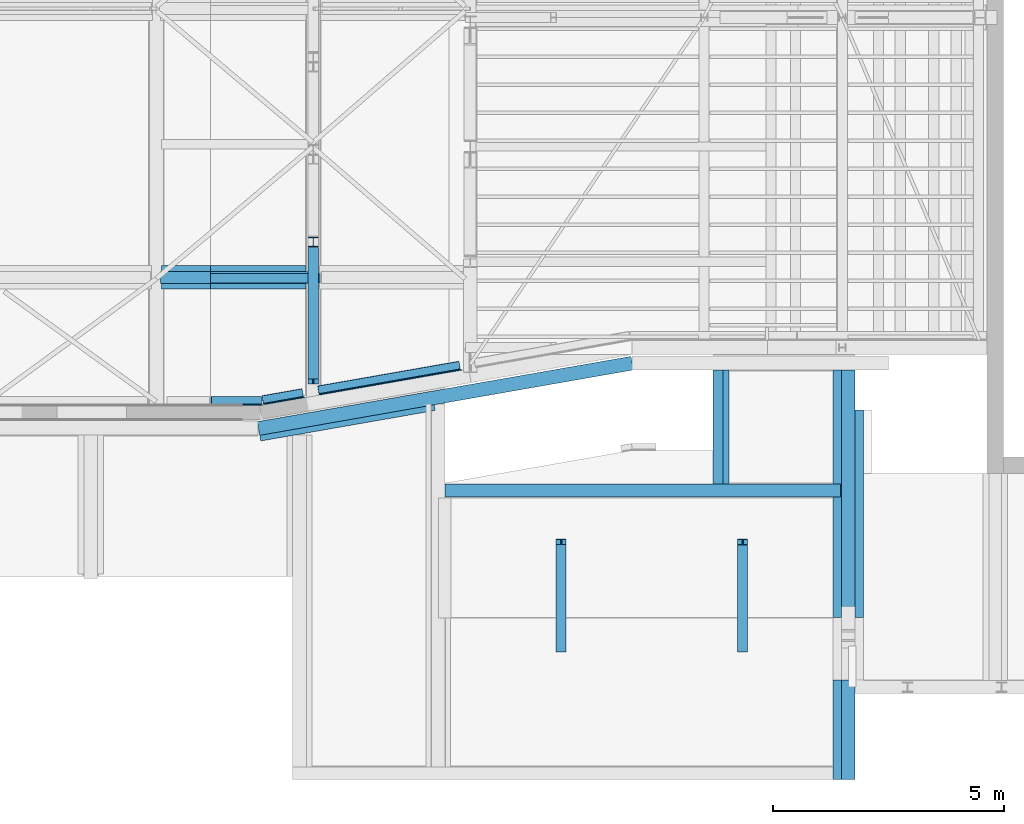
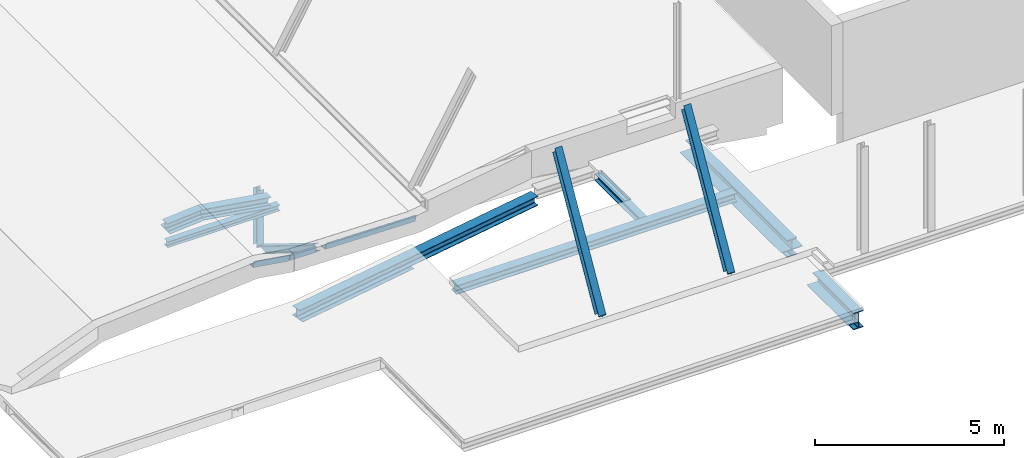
# One storey, part 24 of 50: 15 beams.
"""IFC2X3 building model written with IfcOpenShell, lengths in millimetres."""

from ifc_helpers import new_model, entity, si_unit, converted_unit, derived_unit, direction, frame, frame_2d, origin, place, context, subcontext, project, spatial, polyline, circle_curve, parameter, trimmed, segment, composite_curve, rectangle, i_section, outline, extrude, clip, halfspace, bounded_halfspace, source, transform, mapped, material, material_list, type_object, type_shapes, element, save


model = new_model("IFC2X3")

# Units and contexts
model_context = context("Model", 3, precision=0.01, world=origin(), true_north=direction((6.12303176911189e-17, 1.0)))
body_context = subcontext(model_context, "Body", "Model", "MODEL_VIEW")
ifc_project = project(units=[si_unit("LENGTHUNIT", "METRE", prefix="MILLI"), si_unit("AREAUNIT", "SQUARE_METRE", prefix="MILLI"), si_unit("VOLUMEUNIT", "CUBIC_METRE"), converted_unit("PLANEANGLEUNIT", "DEGREE", entity("IfcRatioMeasure", 0.0174532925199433), si_unit("PLANEANGLEUNIT", "RADIAN"), dimensions=[0, 0, 0, 0, 0, 0, 0]), si_unit("MASSUNIT", "GRAM", prefix="KILO"), derived_unit("MASSDENSITYUNIT", [(si_unit("MASSUNIT", "GRAM", prefix="KILO"), 1), (si_unit("LENGTHUNIT", "METRE"), -3)]), derived_unit("MOMENTOFINERTIAUNIT", [(si_unit("LENGTHUNIT", "METRE"), 4)]), si_unit("TIMEUNIT", "SECOND"), si_unit("FREQUENCYUNIT", "HERTZ"), si_unit("THERMODYNAMICTEMPERATUREUNIT", "DEGREE_CELSIUS"), derived_unit("THERMALTRANSMITTANCEUNIT", [(si_unit("MASSUNIT", "GRAM", prefix="KILO"), 1), (si_unit("THERMODYNAMICTEMPERATUREUNIT", "KELVIN"), -1), (si_unit("TIMEUNIT", "SECOND"), -3)]), derived_unit("VOLUMETRICFLOWRATEUNIT", [(si_unit("LENGTHUNIT", "METRE"), 3), (si_unit("TIMEUNIT", "SECOND"), -1)]), si_unit("ELECTRICCURRENTUNIT", "AMPERE"), si_unit("ELECTRICVOLTAGEUNIT", "VOLT"), si_unit("POWERUNIT", "WATT"), si_unit("FORCEUNIT", "NEWTON", prefix="KILO"), si_unit("ILLUMINANCEUNIT", "LUX"), si_unit("LUMINOUSFLUXUNIT", "LUMEN"), si_unit("LUMINOUSINTENSITYUNIT", "CANDELA"), derived_unit("USERDEFINED", [(si_unit("MASSUNIT", "GRAM", prefix="KILO"), -1), (si_unit("LENGTHUNIT", "METRE"), -2), (si_unit("TIMEUNIT", "SECOND"), 3), (si_unit("LUMINOUSFLUXUNIT", "LUMEN"), 1)]), derived_unit("LINEARVELOCITYUNIT", [(si_unit("LENGTHUNIT", "METRE"), 1), (si_unit("TIMEUNIT", "SECOND"), -1)]), si_unit("PRESSUREUNIT", "PASCAL"), derived_unit("USERDEFINED", [(si_unit("LENGTHUNIT", "METRE"), -2), (si_unit("MASSUNIT", "GRAM", prefix="KILO"), 1), (si_unit("TIMEUNIT", "SECOND"), -2)]), derived_unit("LINEARFORCEUNIT", [(si_unit("MASSUNIT", "GRAM", prefix="KILO"), 1), (si_unit("LENGTHUNIT", "METRE"), 1), (si_unit("TIMEUNIT", "SECOND"), -2), (si_unit("LENGTHUNIT", "METRE"), -1)]), derived_unit("PLANARFORCEUNIT", [(si_unit("MASSUNIT", "GRAM", prefix="KILO"), 1), (si_unit("LENGTHUNIT", "METRE"), 1), (si_unit("TIMEUNIT", "SECOND"), -2), (si_unit("LENGTHUNIT", "METRE"), -2)])], contexts=[model_context])

# Site, building, storey
site_placement = place(None, origin())
site = spatial("IfcSite", under=ifc_project, at=site_placement, Name="Theater aan de Parade", CompositionType="ELEMENT")
building_placement = place(site_placement, origin())
building = spatial("IfcBuilding", under=site, at=building_placement, Name="Theater aan de Parade", CompositionType="ELEMENT")
storey_placement = place(building_placement, frame((0.0, 0.0, 15820.0)))
storey = spatial("IfcBuildingStorey", under=building, at=storey_placement, Name="04 vierde verdieping", CompositionType="ELEMENT", Elevation=15820.0)

# Beams
ifc_material_1 = material(Name="00_PBT_MAT_staal_S355")
beam_type_1 = type_object("IfcBeamType", Name="28_PBT_SF_staal_H-profiel:S355_HE220B", PredefinedType="NOTDEFINED")
beam_1_placement = place(storey_placement, frame((52739.1873742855, 21030.2202940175, 1480.0), z_axis=(0.0, 0.525335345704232, 0.850895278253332), x_axis=(0.0, 0.850895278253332, -0.525335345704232)))
element("IfcBeam", 1, at=beam_1_placement, inside=storey, type_object=beam_type_1, material=ifc_material_1, Name="28_PBT_SF_staal_H-profiel:S355_HE220B", ObjectType="28_PBT_SF_staal_H-profiel:S355_HE220B", context=body_context, shape_type="Clipping", body=[
    clip(clip(extrude(outline(composite_curve([segment(polyline([(94.0, -110.0), (110.0, -110.0)]), True, "CONTINUOUS"), segment(polyline([(110.0, -110.0), (110.0, 110.0)]), True, "CONTINUOUS"), segment(polyline([(110.0, 110.0), (94.0, 110.0)]), True, "CONTINUOUS"), segment(polyline([(94.0, 110.0), (94.0, 22.7499999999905)]), True, "CONTINUOUS"), segment(trimmed(circle_curve(frame_2d((76.0, 22.7499999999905), x_axis=(1.0, 0.0)), 17.9999999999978), [parameter(269.999999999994)], [parameter(0.0)], True, "PARAMETER"), False, "CONTINUOUS"), segment(polyline([(76.0, 4.74999999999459), (-76.0, 4.74999999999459)]), True, "CONTINUOUS"), segment(trimmed(circle_curve(frame_2d((-76.0, 22.7499999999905), x_axis=(0.0, -1.0)), 17.9999999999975), [parameter(269.999999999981)], [parameter(0.0)], True, "PARAMETER"), False, "CONTINUOUS"), segment(polyline([(-94.0, 22.7499999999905), (-94.0, 110.0)]), True, "CONTINUOUS"), segment(polyline([(-94.0, 110.0), (-110.0, 110.0)]), True, "CONTINUOUS"), segment(polyline([(-110.0, 110.0), (-110.0, -110.0)]), True, "CONTINUOUS"), segment(polyline([(-110.0, -110.0), (-94.0, -110.0)]), True, "CONTINUOUS"), segment(polyline([(-94.0, -110.0), (-94.0, -22.7500000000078)]), True, "CONTINUOUS"), segment(trimmed(circle_curve(frame_2d((-76.0, -22.7500000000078), x_axis=(-1.0, 0.0)), 17.9999999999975), [parameter(269.999999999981)], [parameter(0.0)], True, "PARAMETER"), False, "CONTINUOUS"), segment(polyline([(-76.0, -4.75000000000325), (76.0, -4.75000000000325)]), True, "CONTINUOUS"), segment(trimmed(circle_curve(frame_2d((76.0, -22.7500000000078), x_axis=(0.0, 1.0)), 17.9999999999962), [parameter(269.999999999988)], [parameter(0.0)], True, "PARAMETER"), False, "CONTINUOUS"), segment(polyline([(94.0, -22.7500000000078), (94.0, -110.0)]), True, "CONTINUOUS")], self_intersect=False)), frame((495.436375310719, 0.0, 0.0), z_axis=(1.0, 0.0, 0.0), x_axis=(0.0, 0.0, -1.0)), (0.0, 0.0, 1.0), 3384.46111629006), halfspace(frame((3610.91130021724, -130.0, -121.120267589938), z_axis=(0.525335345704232, 0.0, -0.850895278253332), x_axis=(0.850895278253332, 0.0, 0.525335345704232)), False)), halfspace(frame((3894.2391465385, -130.0, 21.7200268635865), z_axis=(0.850895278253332, 0.0, 0.525335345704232), x_axis=(-0.525335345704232, 0.0, 0.850895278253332)), False)),
])
ifc_material_2 = material(Name="00_PBT_MAT_Lucht")
ifc_material_list_1 = material_list([ifc_material_2, ifc_material_1])
beam_type_2 = type_object("IfcBeamType", Name="28_PBT_SF_staal_H-profiel_met_ondergelaste_strip (void):S355_HE300B + ondergelaste strip d=12", PredefinedType="BEAM", material=ifc_material_list_1)
shared_shape_1 = source(origin(), body_context, "Body", "SweptSolid", [
    extrude(rectangle(XDim=12.0, YDim=420.0, at=frame_2d((8.43769498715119e-15, 0.0), x_axis=(1.0, 0.0))), frame((-4112.59046725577, -65.0, -156.0), z_axis=(1.0, 0.0, 0.0), x_axis=(0.0, 0.0, -1.0)), (0.0, 0.0, 1.0), 3841.18093451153),
    extrude(i_section(OverallWidth=300.0, OverallDepth=300.0, WebThickness=11.0, FlangeThickness=18.9999999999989, FilletRadius=27.0, at=frame_2d((-3.97903932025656e-13, -1.4210854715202e-14), x_axis=(0.0, 1.0))), frame((-4113.59046725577, 0.0, 0.0), z_axis=(1.0, 0.0, 0.0), x_axis=(0.0, 0.0, -1.0)), (0.0, 0.0, 1.0), 8227.18093451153),
])
type_shapes(beam_type_2, [shared_shape_1])
beam_2_placement = place(storey_placement, frame((55604.3861490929, 21141.1470188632, 160.0), z_axis=(0.0, 0.0, 1.0), x_axis=(0.985030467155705, 0.172380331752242, 0.0)))
element("IfcBeam", 2, at=beam_2_placement, inside=storey, type_object=beam_type_2, material=ifc_material_1, Name="28_PBT_SF_staal_H-profiel_met_ondergelaste_strip (void):S355_HE300B + ondergelaste strip d=12", ObjectType="28_PBT_SF_staal_H-profiel_met_ondergelaste_strip (void):S355_HE300B + ondergelaste strip d=12", context=body_context, shape_type="MappedRepresentation", body=[
    mapped(shared_shape_1, transform((0.0, 0.0, 0.0), scale=1.0)),
])
beam_type_3 = type_object("IfcBeamType", Name="28_PBT_SF_staal_H-profiel (void):S355_HE280B", PredefinedType="NOTDEFINED")
beam_3_placement = place(storey_placement, frame((55600.0, 19087.7872041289, 0.0)))
element("IfcBeam", 3, at=beam_3_placement, inside=storey, type_object=beam_type_3, material=ifc_material_1, Name="28_PBT_SF_staal_H-profiel (void):S355_HE280B", ObjectType="28_PBT_SF_staal_H-profiel (void):S355_HE280B", context=body_context, shape_type="SweptSolid", body=[
    extrude(outline(composite_curve([segment(polyline([(122.0, -140.0), (140.0, -140.0)]), True, "CONTINUOUS"), segment(polyline([(140.0, -140.0), (140.0, 140.0)]), True, "CONTINUOUS"), segment(polyline([(140.0, 140.0), (122.0, 140.0)]), True, "CONTINUOUS"), segment(polyline([(122.0, 140.0), (122.0, 29.2500000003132)]), True, "CONTINUOUS"), segment(trimmed(circle_curve(frame_2d((98.0, 29.250000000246), x_axis=(1.0, 0.0)), 24.0000000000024), [parameter(270.00000000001)], [parameter(0.0)], True, "PARAMETER"), False, "CONTINUOUS"), segment(polyline([(98.0, 5.25000000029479), (-98.0, 5.24999999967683)]), True, "CONTINUOUS"), segment(trimmed(circle_curve(frame_2d((-98.0, 29.24999999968), x_axis=(0.0, -1.0)), 24.0000000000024), [parameter(270.00000000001)], [parameter(0.0)], True, "PARAMETER"), False, "CONTINUOUS"), segment(polyline([(-122.0, 29.2499999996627), (-122.0, 140.0)]), True, "CONTINUOUS"), segment(polyline([(-122.0, 140.0), (-140.0, 140.0)]), True, "CONTINUOUS"), segment(polyline([(-140.0, 140.0), (-140.0, -140.0)]), True, "CONTINUOUS"), segment(polyline([(-140.0, -140.0), (-122.0, -140.0)]), True, "CONTINUOUS"), segment(polyline([(-122.0, -140.0), (-122.0, -29.2500000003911)]), True, "CONTINUOUS"), segment(trimmed(circle_curve(frame_2d((-98.0, -29.250000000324), x_axis=(-1.0, 0.0)), 24.000000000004), [parameter(270.000000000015)], [parameter(0.0)], True, "PARAMETER"), False, "CONTINUOUS"), segment(polyline([(-98.0, -5.25000000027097), (98.0, -5.24999999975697)]), True, "CONTINUOUS"), segment(trimmed(circle_curve(frame_2d((98.0, -29.249999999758), x_axis=(0.0, 1.0)), 24.0000000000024), [parameter(270.00000000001)], [parameter(0.0)], True, "PARAMETER"), False, "CONTINUOUS"), segment(polyline([(122.0, -29.2499999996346), (122.0, -140.0)]), True, "CONTINUOUS")], self_intersect=False)), frame((0.0, 0.0, 365.0), z_axis=(1.0, 0.0, 0.0), x_axis=(0.0, 0.0, -1.0)), (0.0, 0.0, 1.0), 8574.55207550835),
])
beam_type_4 = type_object("IfcBeamType", Name="28_PBT_SF_staal_H-profiel:S355_HE220A", PredefinedType="NOTDEFINED")
beam_4_placement = place(storey_placement, frame((58114.89761, 15488.4550735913, 546.836930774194), z_axis=(1.0, 0.0, 0.0), x_axis=(0.0, 0.500000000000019, 0.866025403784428)))
element("IfcBeam", 4, at=beam_4_placement, inside=storey, type_object=beam_type_4, material=ifc_material_1, Name="28_PBT_SF_staal_H-profiel:S355_HE220A", ObjectType="28_PBT_SF_staal_H-profiel:S355_HE220A", context=body_context, shape_type="Clipping", body=[
    clip(clip(clip(extrude(i_section(OverallWidth=220.000000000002, OverallDepth=210.0, WebThickness=6.99999999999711, FlangeThickness=11.0000000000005, FilletRadius=17.9999999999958, at=frame_2d((-8.66151594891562e-12, 9.30810983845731e-13), x_axis=(1.0, 0.0))), frame((145.926223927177, -105.0, 0.0), z_axis=(1.0, 0.0, 0.0), x_axis=(0.0, 0.0, -1.0)), (0.0, 0.0, 1.0), 4702.85315593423), halfspace(frame((4848.7793798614, 0.0, 156.495608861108), z_axis=(0.866025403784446, -0.499999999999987, 0.0), x_axis=(0.499999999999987, 0.866025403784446, 0.0)), False)), bounded_halfspace(frame((208.452082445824, -134.723459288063, 3069.47192916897), z_axis=(-0.866025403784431, -0.500000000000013, 0.0), x_axis=(0.500000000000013, -0.866025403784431, 0.0)), False, frame((145.926223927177, -105.0, 0.0), z_axis=(1.0, 0.0, 0.0), x_axis=(0.0, 0.0, -1.0)), polyline([(3.49999999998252, 76.0), (3.49999999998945, -76.0), (21.4999999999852, -94.0), (110.0, -94.0), (110.0, -105.0), (-110.0, -105.0), (-110.0, -94.0), (-21.5000000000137, -94.0), (-3.50000000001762, -76.0), (-3.50000000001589, 76.0), (-3.68506450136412, 78.5745044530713), (3.68506450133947, 78.5745044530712), (3.49999999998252, 76.0)]))), bounded_halfspace(frame((222.878332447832, 18.002825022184, 3069.47192916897), z_axis=(-0.500000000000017, 0.866025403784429, 0.0), x_axis=(0.866025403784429, 0.500000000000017, 0.0)), False, frame((145.926223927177, -105.0, 0.0), z_axis=(1.0, 0.0, 0.0), x_axis=(0.0, 0.0, -1.0)), polyline([(-3.68506450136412, 78.5745044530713), (-21.5000000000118, 94.0), (-110.0, 94.0), (-110.0, 105.0), (110.0, 105.0), (110.0, 94.0), (21.4999999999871, 94.0), (3.6850645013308, 78.5745044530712), (-3.68506450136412, 78.5745044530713)]))),
])
beam_5_placement = place(storey_placement, frame((62051.6547583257, 15488.4550735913, 546.836930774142), z_axis=(1.0, 0.0, 0.0), x_axis=(0.0, 0.500000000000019, 0.866025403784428)))
element("IfcBeam", 5, at=beam_5_placement, inside=storey, type_object=beam_type_4, material=ifc_material_1, Name="28_PBT_SF_staal_H-profiel:S355_HE220A", ObjectType="28_PBT_SF_staal_H-profiel:S355_HE220A", context=body_context, shape_type="Clipping", body=[
    clip(clip(clip(extrude(i_section(OverallWidth=220.000000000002, OverallDepth=209.999999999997, WebThickness=6.9999999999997, FlangeThickness=11.0000000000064, FilletRadius=17.9999999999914, at=frame_2d((-1.73230318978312e-11, 1.47792889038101e-12), x_axis=(1.0, 0.0))), frame((145.926223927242, -105.0, 0.0), z_axis=(1.0, 0.0, 0.0), x_axis=(0.0, 0.0, -1.0)), (0.0, 0.0, 1.0), 4696.13047582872), halfspace(frame((4870.13287335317, 48.6293591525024, -3780.26153946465), z_axis=(0.866025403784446, -0.499999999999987, 0.0), x_axis=(0.499999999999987, 0.866025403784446, 0.0)), False)), bounded_halfspace(frame((208.45208244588, -134.723459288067, -867.285219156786), z_axis=(-0.866025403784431, -0.500000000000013, 0.0), x_axis=(0.500000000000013, -0.866025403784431, 0.0)), False, frame((145.926223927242, -105.0, 0.0), z_axis=(1.0, 0.0, 0.0), x_axis=(0.0, 0.0, -1.0)), polyline([(3.49999999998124, 76.0), (3.49999999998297, -76.0), (21.4999999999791, -94.0), (110.0, -94.0), (110.0, -105.0), (-110.0, -105.0), (-110.0, -94.0), (-21.5000000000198, -94.0), (-3.50000000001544, -76.0), (-3.50000000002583, 76.0), (-3.68506450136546, 78.5745044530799), (3.68506450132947, 78.57450445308), (3.49999999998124, 76.0)]))), bounded_halfspace(frame((222.878332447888, 18.0028250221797, -867.285219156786), z_axis=(-0.500000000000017, 0.866025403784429, 0.0), x_axis=(0.866025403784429, 0.500000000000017, 0.0)), False, frame((145.926223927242, -105.0, 0.0), z_axis=(1.0, 0.0, 0.0), x_axis=(0.0, 0.0, -1.0)), polyline([(-3.68506450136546, 78.5745044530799), (-21.5000000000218, 94.0), (-110.0, 94.0), (-110.0, 105.0), (110.0, 105.0), (110.0, 94.0), (21.4999999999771, 94.0), (3.68506450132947, 78.57450445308), (-3.68506450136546, 78.5745044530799)]))),
])
beam_6_placement = place(storey_placement, frame((52739.1873742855, 24480.2202940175, -650.0), z_axis=(1.0, 0.0, 0.0), x_axis=(0.0, 0.0, 1.0)))
element("IfcBeam", 6, at=beam_6_placement, inside=storey, type_object=beam_type_4, material=ifc_material_1, Name="28_PBT_SF_staal_H-profiel:S355_HE220A", ObjectType="28_PBT_SF_staal_H-profiel:S355_HE220A", context=body_context, shape_type="SweptSolid", body=[
    extrude(i_section(OverallWidth=220.000000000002, OverallDepth=210.000000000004, WebThickness=6.99999999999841, FlangeThickness=10.9999999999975, FilletRadius=17.9999999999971, at=frame_2d((8.66862137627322e-12, -4.33431068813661e-12), x_axis=(1.0, 0.0))), frame((122.700000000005, 0.0, 0.0), z_axis=(1.0, 0.0, 0.0), x_axis=(0.0, 0.0, -1.0)), (0.0, 0.0, 1.0), 1834.6),
])
beam_type_5 = type_object("IfcBeamType", Name="28_PBT_SF_staal_L-profiel:S355_L200x200x20", PredefinedType="NOTDEFINED")
beam_7_placement = place(storey_placement, frame((50584.5809422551, 20986.7999999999, 2059.28942153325), z_axis=(0.156434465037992, 0.0, 0.987688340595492), x_axis=(0.987688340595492, 0.0, -0.156434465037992)))
element("IfcBeam", 7, at=beam_7_placement, inside=storey, type_object=beam_type_5, material=ifc_material_1, Name="28_PBT_SF_staal_L-profiel:S355_L200x200x20", ObjectType="28_PBT_SF_staal_L-profiel:S355_L200x200x20", context=body_context, shape_type="SweptSolid", body=[
    extrude(outline(composite_curve([segment(polyline([(-124.444444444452, -75.55555555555), (75.5555555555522, -75.5555555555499)]), True, "CONTINUOUS"), segment(polyline([(75.5555555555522, -75.5555555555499), (75.555555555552, 124.444444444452)]), True, "CONTINUOUS"), segment(polyline([(75.555555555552, 124.444444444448), (64.5555555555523, 124.444444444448)]), True, "CONTINUOUS"), segment(trimmed(circle_curve(frame_2d((64.555555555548, 115.444444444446), x_axis=(0.0, 1.0)), 8.9999999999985), [parameter(0.0)], [parameter(90.0000000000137)], True, "PARAMETER"), True, "CONTINUOUS"), segment(polyline([(55.5555555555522, 115.444444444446), (55.5555555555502, -37.5555555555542)]), True, "CONTINUOUS"), segment(trimmed(circle_curve(frame_2d((37.5555555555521, -37.5555555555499), x_axis=(1.0, 0.0)), 17.9999999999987), [parameter(269.999999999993)], [parameter(0.0)], True, "PARAMETER"), False, "CONTINUOUS"), segment(polyline([(37.5555555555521, -55.5555555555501), (-115.444444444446, -55.5555555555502)]), True, "CONTINUOUS"), segment(trimmed(circle_curve(frame_2d((-115.444444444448, -64.5555555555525), x_axis=(0.0, 1.0)), 8.99999999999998), [parameter(0.0)], [parameter(90.0000000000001)], True, "PARAMETER"), True, "CONTINUOUS"), segment(polyline([(-124.444444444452, -64.5555555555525), (-124.444444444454, -75.55555555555)]), True, "CONTINUOUS")], self_intersect=False)), frame((0.0, 18.7555555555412, -319.444444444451), z_axis=(1.0, 0.0, 0.0), x_axis=(0.0, 0.0, -1.0)), (0.0, 0.0, 1.0), 1102.47200859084),
])
beam_8_placement = place(storey_placement, frame((52917.8217096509, 21215.6734452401, 1689.7403884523), z_axis=(0.15184123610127, 0.0265722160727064, 0.988047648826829), x_axis=(0.973257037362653, 0.170319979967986, -0.154148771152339)))
element("IfcBeam", 8, at=beam_8_placement, inside=storey, type_object=beam_type_5, material=ifc_material_1, Name="28_PBT_SF_staal_L-profiel:S355_L200x200x20", ObjectType="28_PBT_SF_staal_L-profiel:S355_L200x200x20", context=body_context, shape_type="SweptSolid", body=[
    extrude(outline(composite_curve([segment(polyline([(-37.5555555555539, 55.5555555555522), (115.444444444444, 55.5555555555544)]), True, "CONTINUOUS"), segment(trimmed(circle_curve(frame_2d((115.444444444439, 64.5555555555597), x_axis=(0.0, -1.0)), 9.00000000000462), [parameter(0.0)], [parameter(89.9999999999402)], True, "PARAMETER"), True, "CONTINUOUS"), segment(polyline([(124.444444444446, 64.5555555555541), (124.444444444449, 75.555555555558)]), True, "CONTINUOUS"), segment(polyline([(124.444444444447, 75.5555555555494), (-75.5555555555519, 75.5555555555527)]), True, "CONTINUOUS"), segment(polyline([(-75.5555555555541, 75.5555555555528), (-75.5555555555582, -124.444444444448)]), True, "CONTINUOUS"), segment(polyline([(-75.5555555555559, -124.444444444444), (-64.5555555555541, -124.444444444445)]), True, "CONTINUOUS"), segment(trimmed(circle_curve(frame_2d((-64.5555555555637, -115.444444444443), x_axis=(0.0, -1.0)), 9.00000000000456), [parameter(0.0)], [parameter(89.9999999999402)], True, "PARAMETER"), True, "CONTINUOUS"), segment(polyline([(-55.5555555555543, -115.444444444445), (-55.555555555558, 37.5555555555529)]), True, "CONTINUOUS"), segment(trimmed(circle_curve(frame_2d((-37.5555555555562, 37.5555555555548), x_axis=(-1.0, 0.0)), 17.9999999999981), [parameter(269.999999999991)], [parameter(0.0)], True, "PARAMETER"), False, "CONTINUOUS")], self_intersect=False)), frame((0.0, 27.3629456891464, -318.822510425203), z_axis=(1.0, 0.0, 0.0), x_axis=(0.0, -0.0269662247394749, 0.999636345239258)), (0.0, 0.0, 1.0), 3147.54957756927),
])
beam_9_placement = place(storey_placement, frame((51708.5980926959, 21004.0593127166, 1881.26259424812), z_axis=(0.15184123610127, 0.0265722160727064, 0.988047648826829), x_axis=(0.973257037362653, 0.170319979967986, -0.154148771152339)))
element("IfcBeam", 9, at=beam_9_placement, inside=storey, type_object=beam_type_5, material=ifc_material_1, Name="28_PBT_SF_staal_L-profiel:S355_L200x200x20", ObjectType="28_PBT_SF_staal_L-profiel:S355_L200x200x20", context=body_context, shape_type="SweptSolid", body=[
    extrude(outline(composite_curve([segment(polyline([(-37.5555555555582, 55.5555555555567), (115.444444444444, 55.5555555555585)]), True, "CONTINUOUS"), segment(trimmed(circle_curve(frame_2d((115.444444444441, 64.5555555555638), x_axis=(0.0, -1.0)), 9.00000000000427), [parameter(0.0)], [parameter(89.9999999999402)], True, "PARAMETER"), True, "CONTINUOUS"), segment(polyline([(124.444444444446, 64.5555555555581), (124.444444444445, 75.5555555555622)]), True, "CONTINUOUS"), segment(polyline([(124.444444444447, 75.5555555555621), (-75.5555555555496, 75.5555555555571)]), True, "CONTINUOUS"), segment(polyline([(-75.5555555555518, 75.5555555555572), (-75.5555555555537, -124.444444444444)]), True, "CONTINUOUS"), segment(polyline([(-75.5555555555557, -124.444444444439), (-64.5555555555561, -124.44444444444)]), True, "CONTINUOUS"), segment(trimmed(circle_curve(frame_2d((-64.5555555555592, -115.444444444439), x_axis=(0.0, -1.0)), 9.00000000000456), [parameter(0.0)], [parameter(89.9999999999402)], True, "PARAMETER"), True, "CONTINUOUS"), segment(polyline([(-55.5555555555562, -115.44444444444), (-55.5555555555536, 37.5555555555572)]), True, "CONTINUOUS"), segment(trimmed(circle_curve(frame_2d((-37.5555555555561, 37.5555555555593), x_axis=(-1.0, 0.0)), 17.9999999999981), [parameter(269.999999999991)], [parameter(0.0)], True, "PARAMETER"), False, "CONTINUOUS")], self_intersect=False)), frame((0.0, 27.3629456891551, -318.822510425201), z_axis=(1.0, 0.0, 0.0), x_axis=(0.0, -0.0269662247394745, 0.999636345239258)), (0.0, 0.0, 1.0), 893.107966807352),
])
ifc_material_list_2 = material_list([ifc_material_1, ifc_material_2])
beam_type_6 = type_object("IfcBeamType", Name="28_PBT_SF_staal_H-profiel_met_ondergelaste_strip (void):S355_HE220A + ondergelaste strip d=12", PredefinedType="BEAM", material=ifc_material_list_2)
shared_shape_2 = source(origin(), body_context, "Body", "SweptSolid", [
    extrude(i_section(OverallWidth=220.000000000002, OverallDepth=210.0, WebThickness=6.99999999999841, FlangeThickness=10.9999999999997, FilletRadius=17.9999999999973, at=frame_2d((-8.66862137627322e-12, -2.16715534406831e-12), x_axis=(1.0, 0.0))), frame((61519.5746999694, 21705.0, 16145.0), z_axis=(0.0, -1.0, 0.0), x_axis=(-1.0, 0.0, 0.0)), (0.0, 0.0, 1.0), 2477.21279587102),
    extrude(rectangle(XDim=11.9999999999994, YDim=340.000000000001, at=frame_2d((-4.33431068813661e-12, 2.16582307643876e-12), x_axis=(0.0, 1.0))), frame((61584.5746999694, 21704.0, 16034.0), z_axis=(0.0, -1.0, 0.0), x_axis=(-1.0, 0.0, 0.0)), (0.0, 0.0, 1.0), 2475.21279587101),
])
type_shapes(beam_type_6, [shared_shape_2])
beam_10_placement = place(storey_placement, frame((0.0, 0.0, -15820.0)))
element("IfcBeam", 10, at=beam_10_placement, inside=storey, type_object=beam_type_6, material=ifc_material_1, Name="28_PBT_SF_staal_H-profiel_met_ondergelaste_strip (void):S355_HE220A + ondergelaste strip d=12", ObjectType="28_PBT_SF_staal_H-profiel_met_ondergelaste_strip (void):S355_HE220A + ondergelaste strip d=12", context=body_context, shape_type="MappedRepresentation", body=[
    mapped(shared_shape_2, transform((0.0, 0.0, 0.0), scale=1.0)),
])
beam_type_7 = type_object("IfcBeamType", Name="28_PBT_SF_staal_H-profiel:S355_HE200A", PredefinedType="NOTDEFINED")
beam_11_placement = place(storey_placement, frame((52889.1873742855, 23690.0, 0.0), z_axis=(0.0, 0.0, 1.0), x_axis=(-1.0, 0.0, 0.0)))
element("IfcBeam", 11, at=beam_11_placement, inside=storey, type_object=beam_type_7, material=ifc_material_1, Name="28_PBT_SF_staal_H-profiel:S355_HE200A", ObjectType="28_PBT_SF_staal_H-profiel:S355_HE200A", context=body_context, shape_type="SweptSolid", body=[
    extrude(i_section(OverallWidth=199.999999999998, OverallDepth=190.0, WebThickness=6.50000000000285, FlangeThickness=9.99999999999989, FilletRadius=18.0000000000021, at=frame_2d((2.16715534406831e-12, 6.50146603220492e-12), x_axis=(0.0, 1.0))), frame((0.0, 0.0, 1165.0), z_axis=(1.0, 0.0, 0.0), x_axis=(0.0, 0.0, -1.0)), (0.0, 0.0, 1.0), 3432.76164612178),
])
ifc_material_list_3 = material_list([ifc_material_2, ifc_material_1])
beam_type_8 = type_object("IfcBeamType", Name="28_PBT_SF_staal_H-profiel_met_onderplaat (void):S355_HE260A + onderplaat d=12", PredefinedType="BEAM", material=ifc_material_list_3)
shared_shape_3 = source(origin(), body_context, "Body", "Clipping", [
    clip(extrude(i_section(OverallWidth=260.000000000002, OverallDepth=250.000000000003, WebThickness=7.50000000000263, FlangeThickness=12.5, FilletRadius=23.9999999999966, at=frame_2d((-2.1600499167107e-12, -1.08002495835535e-12), x_axis=(1.0, 0.0))), frame((50495.0112438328, 23708.9366326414, 17640.3595866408), z_axis=(0.987688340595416, 0.0, -0.156434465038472), x_axis=(0.0, 1.0, 0.0)), (0.0, 0.0, 1.0), 2131.09008589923), halfspace(frame((50514.5655519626, 32410.0, 23110.0), z_axis=(-1.0, 0.0, 0.0), x_axis=(0.0, 0.0, 1.0)), False)),
    clip(extrude(rectangle(XDim=11.9999999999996, YDim=510.000000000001, at=frame_2d((-6.50857145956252e-12, -1.0689227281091e-12), x_axis=(0.0, 1.0))), frame((50513.6269451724, 23708.9366326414, 17504.7782177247), z_axis=(0.987688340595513, 0.0, -0.156434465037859), x_axis=(0.0, 1.0, 0.0)), (0.0, 0.0, 1.0), 2091.49397581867), halfspace(frame((50514.5655519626, 32410.0, 23110.0), z_axis=(-1.0, 0.0, 0.0), x_axis=(0.0, 0.0, 1.0)), False)),
])
type_shapes(beam_type_8, [shared_shape_3])
beam_12_placement = place(storey_placement, frame((0.0, 0.0, -15820.0)))
element("IfcBeam", 12, at=beam_12_placement, inside=storey, type_object=beam_type_8, material=ifc_material_1, Name="28_PBT_SF_staal_H-profiel_met_onderplaat (void):S355_HE260A + onderplaat d=12", ObjectType="28_PBT_SF_staal_H-profiel_met_onderplaat (void):S355_HE260A + onderplaat d=12", context=body_context, shape_type="MappedRepresentation", body=[
    mapped(shared_shape_3, transform((0.0, 0.0, 0.0), scale=1.0)),
])
ifc_material_list_4 = material_list([ifc_material_1, ifc_material_2])
beam_type_9 = type_object("IfcBeamType", Name="28_PBT_SF_staal_H-profiel_met_onderplaat (void):S355_HE260A + onderplaat d=12", PredefinedType="BEAM", material=ifc_material_list_4)
shared_shape_4 = source(origin(), body_context, "Body", "Clipping", [
    clip(extrude(i_section(OverallWidth=260.000000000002, OverallDepth=250.000000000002, WebThickness=7.50000000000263, FlangeThickness=12.499999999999, FilletRadius=23.9999999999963, at=frame_2d((2.1600499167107e-12, 2.1600499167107e-12), x_axis=(1.0, 0.0))), frame((49436.3488295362, 23708.9366326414, 17555.1125895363), z_axis=(0.99682073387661, 0.0, 0.0796770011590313), x_axis=(0.0, -1.0, 0.0)), (0.0, 0.0, 1.0), 1091.64698384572), halfspace(frame((50514.5655519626, 32410.0, 23110.0), z_axis=(1.0, 0.0, 0.0), x_axis=(0.0, 0.0, 1.0)), False)),
    clip(extrude(rectangle(XDim=12.0000000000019, YDim=510.000000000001, at=frame_2d((-2.1600499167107e-12, 0.0), x_axis=(0.0, 1.0))), frame((49446.786516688, 23708.9366326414, 17424.5290733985), z_axis=(0.996820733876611, 0.0, 0.0796770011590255), x_axis=(0.0, -1.0, 0.0)), (0.0, 0.0, 1.0), 1071.6642029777), halfspace(frame((50514.5655519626, 32410.0, 23110.0), z_axis=(1.0, 0.0, 0.0), x_axis=(0.0, 0.0, 1.0)), False)),
])
type_shapes(beam_type_9, [shared_shape_4])
beam_13_placement = place(storey_placement, frame((0.0, 0.0, -15820.0)))
element("IfcBeam", 13, at=beam_13_placement, inside=storey, type_object=beam_type_9, material=ifc_material_1, Name="28_PBT_SF_staal_H-profiel_met_onderplaat (void):S355_HE260A + onderplaat d=12", ObjectType="28_PBT_SF_staal_H-profiel_met_onderplaat (void):S355_HE260A + onderplaat d=12", context=body_context, shape_type="MappedRepresentation", body=[
    mapped(shared_shape_4, transform((0.0, 0.0, 0.0), scale=1.0)),
])
ifc_material_list_5 = material_list([ifc_material_1, ifc_material_2])
beam_type_10 = type_object("IfcBeamType", Name="28_PBT_SF_staal_H-profiel_met_oplegstrippen (void):S355_HE550B + oplegstrippen d=25_ h=325", PredefinedType="BEAM", material=ifc_material_list_5)
shared_shape_5 = source(origin(), body_context, "Body", "SweptSolid", [
    extrude(i_section(OverallWidth=300.000000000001, OverallDepth=550.000000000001, WebThickness=14.9999999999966, FlangeThickness=28.9999999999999, FilletRadius=27.0000000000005, at=frame_2d((8.65441052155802e-12, 0.0), x_axis=(1.0, 0.0))), frame((64344.5520755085, 21705.0, 16090.0), z_axis=(0.0, -1.0, 0.0), x_axis=(-1.0, 0.0, 0.0)), (0.0, 0.0, 1.0), 5368.19666399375),
    extrude(rectangle(XDim=25.0000000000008, YDim=319.999999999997, at=frame_2d((-1.4210854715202e-14, -2.16537898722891e-12), x_axis=(0.0, 1.0))), frame((64512.0520755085, 20830.0, 16027.5), z_axis=(0.0, -1.0, 0.0), x_axis=(-1.0, 0.0, 0.0)), (0.0, 0.0, 1.0), 4493.19666399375),
    extrude(rectangle(XDim=15.0000000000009, YDim=319.999999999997, at=frame_2d((4.33431068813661e-12, 0.0), x_axis=(0.0, 1.0))), frame((64177.0520755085, 21705.0, 16027.5), z_axis=(0.0, -1.0, 0.0), x_axis=(-1.0, 0.0, 0.0)), (0.0, 0.0, 1.0), 5368.19666399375),
])
type_shapes(beam_type_10, [shared_shape_5])
beam_14_placement = place(storey_placement, frame((0.0, 0.0, -15820.0)))
element("IfcBeam", 14, at=beam_14_placement, inside=storey, type_object=beam_type_10, material=ifc_material_1, Name="28_PBT_SF_staal_H-profiel_met_oplegstrippen (void):S355_HE550B + oplegstrippen d=25_ h=325", ObjectType="28_PBT_SF_staal_H-profiel_met_oplegstrippen (void):S355_HE550B + oplegstrippen d=25_ h=325", context=body_context, shape_type="MappedRepresentation", body=[
    mapped(shared_shape_5, transform((0.0, 0.0, 0.0), scale=1.0)),
])
ifc_material_list_6 = material_list([ifc_material_2, ifc_material_1])
beam_type_11 = type_object("IfcBeamType", Name="28_PBT_SF_staal_H-profiel_met_oplegstrippen (void):S355_HE550B + oplegstrip d=15_ h=325", PredefinedType="BEAM", material=ifc_material_list_6)
shared_shape_6 = source(origin(), body_context, "Body", "SweptSolid", [
    extrude(i_section(OverallWidth=300.000000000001, OverallDepth=550.000000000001, WebThickness=14.9999999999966, FlangeThickness=28.9999999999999, FilletRadius=27.0000000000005, at=frame_2d((1.73230318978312e-11, 2.1600499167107e-12), x_axis=(1.0, 0.0))), frame((64344.5520755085, 14982.0, 15880.0), z_axis=(0.0, -1.0, 0.0), x_axis=(-1.0, 0.0, 0.0)), (0.0, 0.0, 1.0), 2167.00000000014),
    extrude(rectangle(XDim=15.0000000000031, YDim=319.999999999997, at=frame_2d((-4.33431068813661e-12, -1.08268949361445e-12), x_axis=(0.0, 1.0))), frame((64177.0520755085, 14982.0, 15822.5), z_axis=(0.0, -1.0, 0.0), x_axis=(-1.0, 0.0, 0.0)), (0.0, 0.0, 1.0), 2167.00000000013),
])
type_shapes(beam_type_11, [shared_shape_6])
beam_15_placement = place(storey_placement, frame((0.0, 0.0, -15820.0)))
element("IfcBeam", 15, at=beam_15_placement, inside=storey, type_object=beam_type_11, material=ifc_material_1, Name="28_PBT_SF_staal_H-profiel_met_oplegstrippen (void):S355_HE550B + oplegstrip d=15_ h=325", ObjectType="28_PBT_SF_staal_H-profiel_met_oplegstrippen (void):S355_HE550B + oplegstrip d=15_ h=325", context=body_context, shape_type="MappedRepresentation", body=[
    mapped(shared_shape_6, transform((0.0, 0.0, 0.0), scale=1.0)),
])

save(model, "model.ifc")
